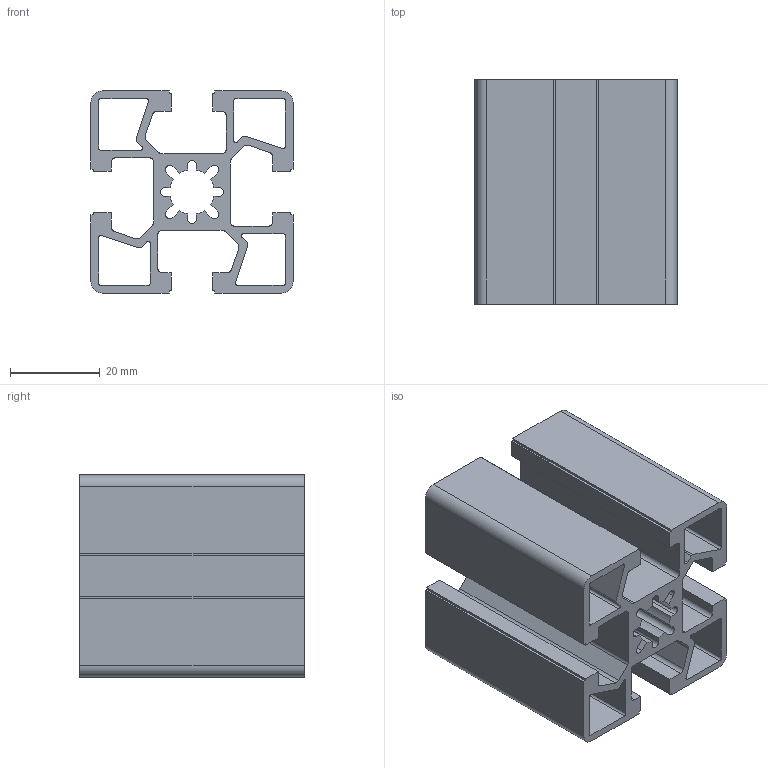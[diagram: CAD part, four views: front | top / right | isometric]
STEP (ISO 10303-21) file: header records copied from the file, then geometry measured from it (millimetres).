
FILE_DESCRIPTION (( 'STEP AP203' ), '1' );
FILE_NAME ('45X45.STEP', '2018-04-06T08:35:57', ( '' ), ( '' ), 'SwSTEP 2.0', 'SolidWorks 2014', '' );
FILE_SCHEMA (( 'CONFIG_CONTROL_DESIGN' ));
Length unit declared in the file: millimetre
Products named in the file (1): 45X45
Bounding box: 45 x 50 x 45 mm (x, y, z)
Volume: 32542.6 mm3; surface area: 30419.3 mm2
Topology: 1 solids, 1 shells, 161 faces, 477 edges, 318 vertices
Faces by surface type: plane 94, cylinder 67
Entity records: 5502 total; most frequent: CARTESIAN_POINT 957, ORIENTED_EDGE 954, DIRECTION 935, EDGE_CURVE 477, VECTOR 343, LINE 343, VERTEX_POINT 318, AXIS2_PLACEMENT_3D 296
